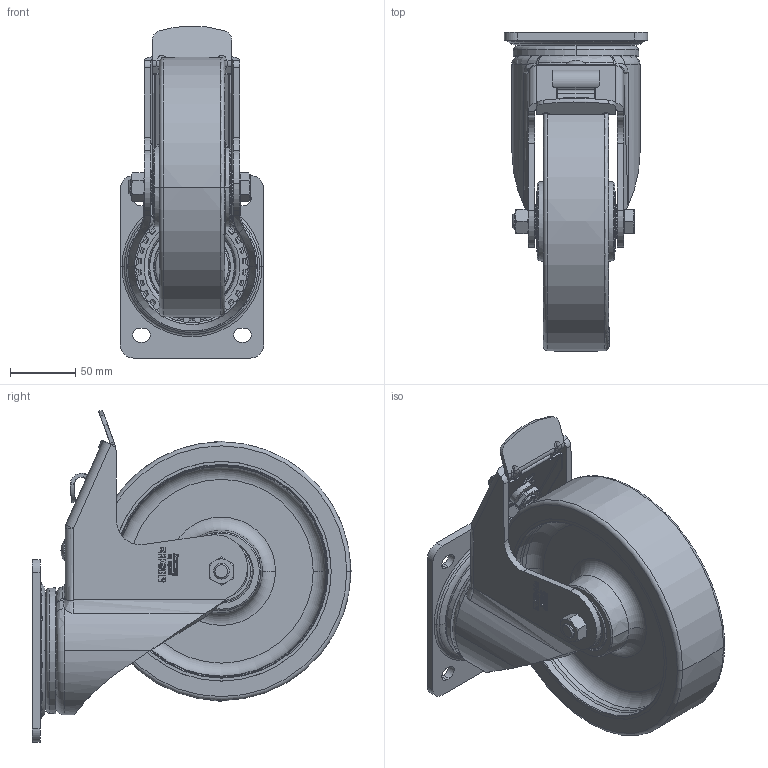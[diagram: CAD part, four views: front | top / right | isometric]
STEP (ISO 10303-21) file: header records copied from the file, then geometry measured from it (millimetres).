
FILE_DESCRIPTION (( 'STEP AP214' ), '1' );
FILE_NAME ('LH-GTH_200K-FI_474825-214.step', '2022-01-01T10:16:49', ( '' ), ( '' ), 'SwSTEP 2.0', 'SolidWorks 2018', '' );
FILE_SCHEMA (( 'AUTOMOTIVE_DESIGN' ));
Length unit declared in the file: millimetre
Products named in the file (5): GH-LH_175-250_GH-LH-200x60-03-FI_20x60; GTH_3D_G16_GTH_200_20K_027763; GH-LH-200x60-03-FI_20x60_G16_3D; LH-GTH_200K-FI_474825-214; GTH_200_20K_G16_3D
Assembly tree (4 placements, depth 3):
  LH-GTH_200K-FI_474825-214
    GTH_3D_G16_GTH_200_20K_027763
      GTH_200_20K_G16_3D
    GH-LH_175-250_GH-LH-200x60-03-FI_20x60
      GH-LH-200x60-03-FI_20x60_G16_3D
Bounding box: 110 x 244.91 x 254.72 mm (x, y, z)
Volume: 818770.6 mm3; surface area: 296925.2 mm2
Topology: 4 solids, 8 shells, 3154 faces, 8501 edges, 5505 vertices
Faces by surface type: plane 1242, bspline 1010, cylinder 570, torus 181, cone 139, sphere 12
Entity records: 135229 total; most frequent: CARTESIAN_POINT 56318, ORIENTED_EDGE 16972, DIRECTION 11486, EDGE_CURVE 8486, VERTEX_POINT 5531, LINE 4396, VECTOR 4396, AXIS2_PLACEMENT_3D 3545
